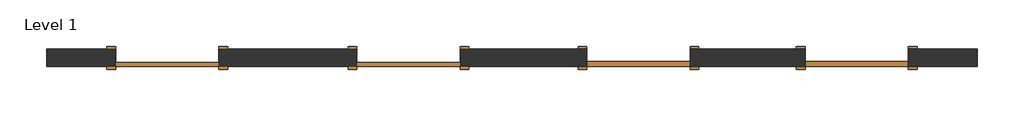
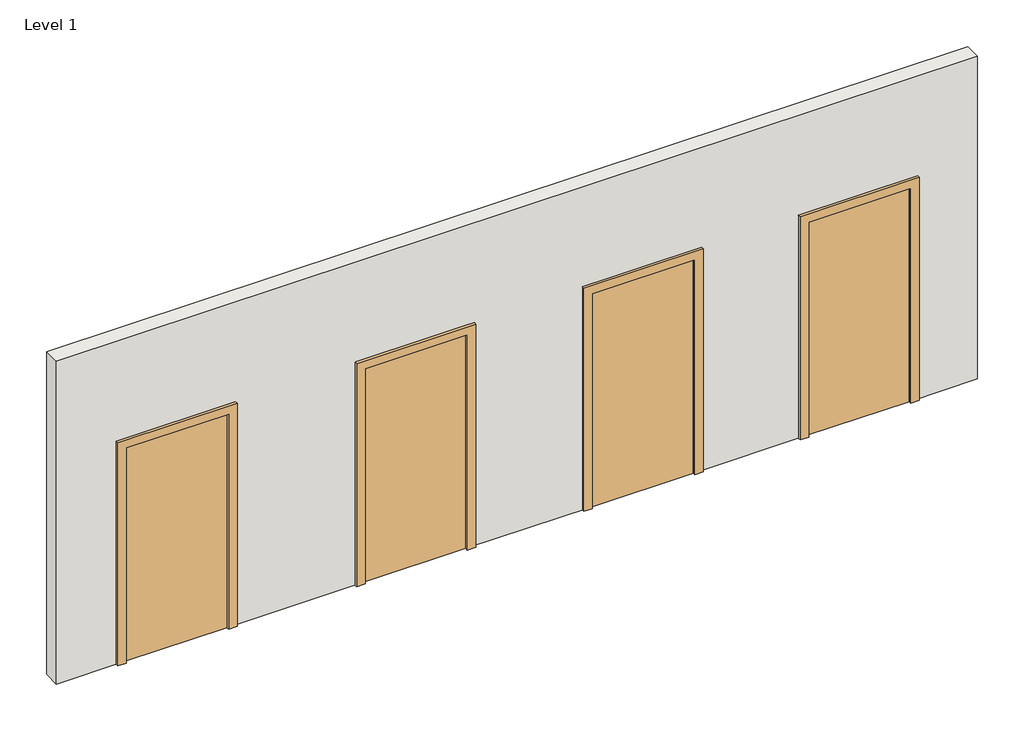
# One storey: 4 doors, 1 wall.
"""IFC4 building model written with IfcOpenShell, lengths in millimetres."""

from ifc_helpers import new_model, si_unit, frame, origin, place, context, project, spatial, polyline, outline, extrude, transform, mapped, element, save
from components import door_6a42c115, door_e28f8d4c

model = new_model("IFC4")

# Units and contexts
model_context = context("Model", 3, world=origin())
ifc_project = project(units=[si_unit("LENGTHUNIT", "METRE", prefix="MILLI")], contexts=[model_context])

# Site, building, storey
site = spatial("IfcSite", under=ifc_project)
building = spatial("IfcBuilding", under=site)
storey = spatial("IfcBuildingStorey", under=building, Name="Level 1", Elevation=0.0)

# Doors
placement = place(None, origin())
door_shape = door_6a42c115(model_context)
element("IfcDoor", 1, ObjectType="VA7500 VA4 - Alki : 36\" x 80\"", at=placement, inside=storey, context=model_context, shape_type="MappedRepresentation", body=[
    mapped(door_shape, transform((6803.9791773, 17070.3612026, 0.0), x_axis=(-1.0, 0.0, 0.0), y_axis=(0.0, -1.0, 0.0), z_axis=(0.0, 0.0, 1.0))),
])
door_2_shape = door_e28f8d4c(model_context)
element("IfcDoor", 2, ObjectType="VA7300 VA8 - Alki : 36\" x 80\"", at=placement, inside=storey, context=model_context, shape_type="MappedRepresentation", body=[
    mapped(door_2_shape, transform((2841.5791773, 17070.3612026, 0.0), x_axis=(-1.0, 0.0, 0.0), y_axis=(0.0, -1.0, 0.0), z_axis=(0.0, 0.0, 1.0))),
])
element("IfcDoor", 3, ObjectType="VA7300 VA8 : 36\" x 80\"", at=placement, inside=storey, context=model_context, shape_type="MappedRepresentation", body=[
    mapped(door_2_shape, transform((707.9791773, 17070.3612026, 0.0), x_axis=(-1.0, 0.0, 0.0), y_axis=(0.0, -1.0, 0.0), z_axis=(0.0, 0.0, 1.0))),
])
element("IfcDoor", 4, ObjectType="VA7500 VA4 : 36\" x 80\"", at=placement, inside=storey, context=model_context, shape_type="MappedRepresentation", body=[
    mapped(door_shape, transform((4873.5791773, 17070.3612026, 0.0), x_axis=(-1.0, 0.0, 0.0), y_axis=(0.0, -1.0, 0.0), z_axis=(0.0, 0.0, 1.0))),
])

# Wall
element("IfcWall", 5, ObjectType="Generic - 6\"", at=placement, inside=storey, context=model_context, shape_type="SweptSolid", body=[
    extrude(outline(polyline([(0.0, 3298.7791773), (0.0, 4416.3791773), (2032.0, 4416.3791773), (2032.0, 5330.7791773), (0.0, 5330.7791773), (0.0, 6346.7791773), (2032.0, 6346.7791773), (2032.0, 7261.1791773), (0.0, 7261.1791773), (0.0, 7870.7791773), (3048.0, 7870.7791773), (3048.0, -358.8208227), (0.0, -358.8208227), (0.0, 250.7791773), (2032.0, 250.7791773), (2032.0, 1165.1791773), (0.0, 1165.1791773), (0.0, 2384.3791773), (2032.0, 2384.3791773), (2032.0, 3298.7791773), (0.0, 3298.7791773)])), frame((0.0, 16994.1612026, 0.0), z_axis=(0.0, 1.0, 0.0), x_axis=(0.0, 0.0, 1.0)), (0.0, 0.0, 1.0), 152.4),
])

save(model, "model.ifc")
